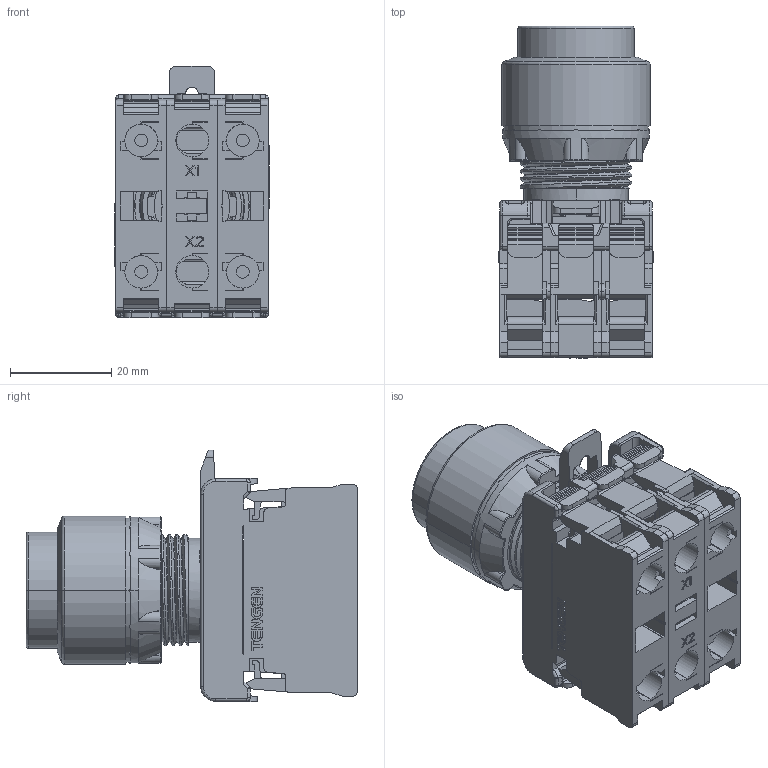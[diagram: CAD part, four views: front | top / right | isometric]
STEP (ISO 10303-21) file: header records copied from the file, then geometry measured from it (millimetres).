
FILE_DESCRIPTION (( 'STEP AP214' ), '1' );
FILE_NAME ('TGLA1-G.stp', '2026-05-15T09:01:23', ( '' ), ( '' ), 'SwSTEP 2.0', 'SolidWorks 2024', '' );
FILE_SCHEMA (( 'AUTOMOTIVE_DESIGN' ));
Length unit declared in the file: millimetre
Products named in the file (1): TGLA1-G
Bounding box: 30.5 x 65.65 x 49.8 mm (x, y, z)
Volume: 26089.4 mm3; surface area: 37179.8 mm2
Topology: 4 solids, 10 shells, 2834 faces, 8123 edges, 5305 vertices
Faces by surface type: plane 1568, cylinder 817, bspline 230, cone 159, torus 56, sphere 4
Entity records: 106733 total; most frequent: CARTESIAN_POINT 33004, ORIENTED_EDGE 16234, DIRECTION 14426, EDGE_CURVE 8117, VERTEX_POINT 5305, VECTOR 5286, LINE 5286, AXIS2_PLACEMENT_3D 4570
